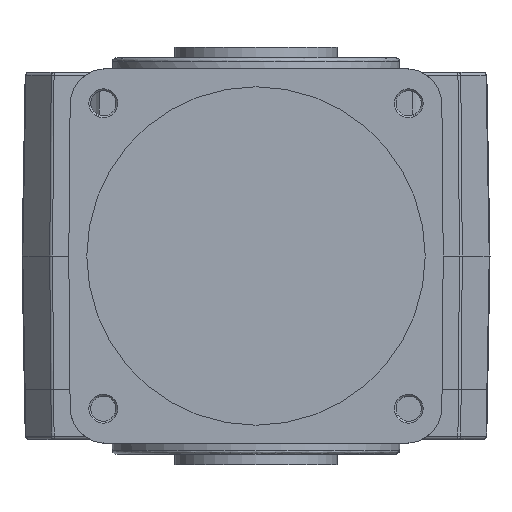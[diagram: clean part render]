
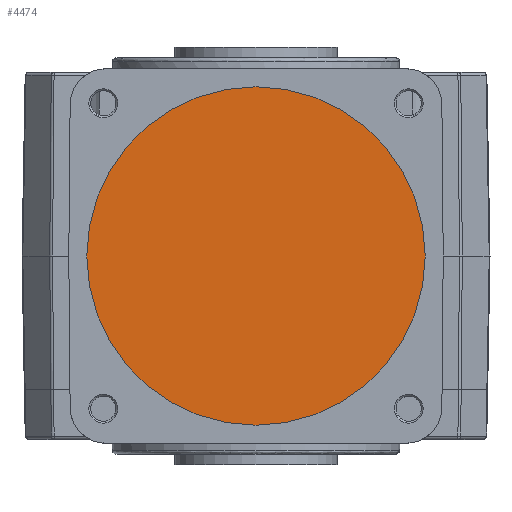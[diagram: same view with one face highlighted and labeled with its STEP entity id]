
A CAD part, front view. The second image highlights one B-rep face of the part: STEP entity #4474.
In plain terms, the highlighted planar face has unit normal (0, -1, 0).
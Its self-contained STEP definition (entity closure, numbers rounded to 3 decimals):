
#3095 = CARTESIAN_POINT ( 'NONE',  ( 0., -105., 37.5 ) ) ;
#3096 = PLANE ( 'NONE',  #19399 ) ;
#3099 = DIRECTION ( 'NONE',  ( 0., 1., 0. ) ) ;
#3100 = DIRECTION ( 'NONE',  ( 0., 0., 1. ) ) ;
#4474 = ADVANCED_FACE ( 'NONE', ( #8288 ), #3096, .F. ) ;
#6376 = EDGE_LOOP ( 'NONE', ( #13412 ) ) ;
#7192 = VERTEX_POINT ( 'NONE', #20557 ) ;
#8288 = FACE_OUTER_BOUND ( 'NONE', #6376, .T. ) ;
#12421 = AXIS2_PLACEMENT_3D ( 'NONE', #17635, #17636, #17637 ) ;
#13412 = ORIENTED_EDGE ( 'NONE', *, *, #16670, .T. ) ;
#16140 = CIRCLE ( 'NONE', #12421, 47. ) ;
#16670 = EDGE_CURVE ( 'NONE', #7192, #7192, #16140, .T. ) ;
#17635 = CARTESIAN_POINT ( 'NONE',  ( 0., -105., 37.5 ) ) ;
#17636 = DIRECTION ( 'NONE',  ( 0., -1., 0. ) ) ;
#17637 = DIRECTION ( 'NONE',  ( 0., 0., -1. ) ) ;
#19399 = AXIS2_PLACEMENT_3D ( 'NONE', #3095, #3099, #3100 ) ;
#20557 = CARTESIAN_POINT ( 'NONE',  ( 0., -105., -9.5 ) ) ;
